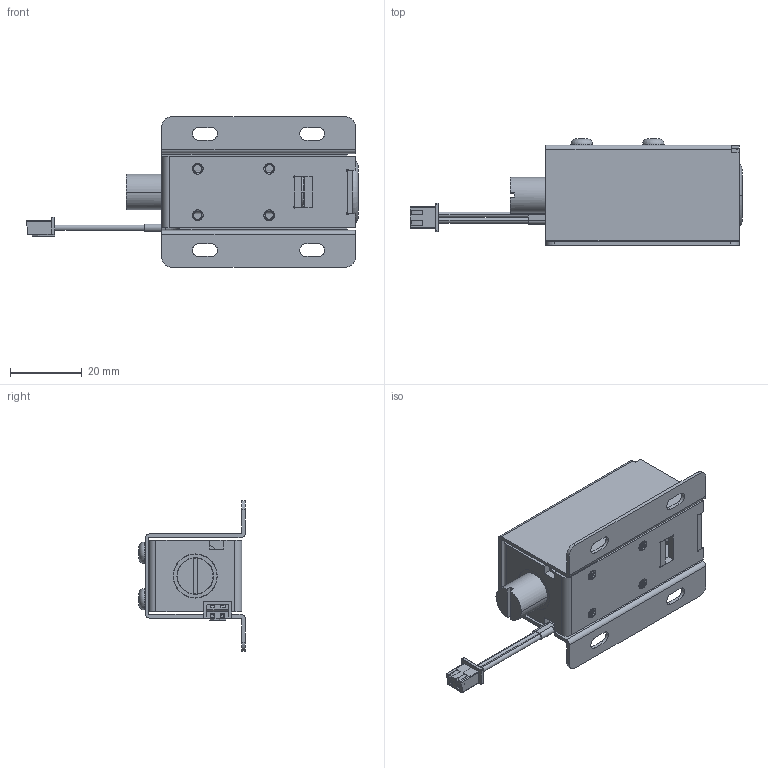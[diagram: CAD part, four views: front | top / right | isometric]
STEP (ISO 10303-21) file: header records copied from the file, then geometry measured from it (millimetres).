
FILE_DESCRIPTION((''),'2;1');
FILE_NAME('LY03G0_ASM','2025-04-24T16:09:44',('PRIME'),(''),'CREO PARAMETRIC BY PTC INC, 2023073','CREO PARAMETRIC BY PTC INC, 2023073','');
FILE_SCHEMA(('CONFIG_CONTROL_DESIGN','SHAPE_APPEARANCE_LAYERS_GROUPS'));
Length unit declared in the file: millimetre
Products named in the file (11): A-LY03G-00; B-LY03G-00; C-LY03G-000; E-LY03G-000; E-LY03B-00; D-LY03G-0001; G-LY03G-00; I-LY03G-00; M3-600; 0001; LY03G0_ASM
Assembly tree (11 placements, depth 2):
  LY03G0_ASM
    A-LY03G-00
    B-LY03G-00
    C-LY03G-000
    E-LY03G-000
    E-LY03B-00
    D-LY03G-0001
    G-LY03G-00
    I-LY03G-00
    M3-600  x2
    0001
Bounding box: 92.8 x 29.8 x 42 mm (x, y, z)
Volume: 17014.8 mm3; surface area: 25669.1 mm2
Topology: 12 solids, 12 shells, 598 faces, 1610 edges, 1052 vertices
Faces by surface type: plane 272, cylinder 212, bspline 64, torus 34, cone 10, revolution 4, sphere 2
Entity records: 30886 total; most frequent: CARTESIAN_POINT 11665, ORIENTED_EDGE 2922, DIRECTION 2620, EDGE_CURVE 1461, PRESENTATION_STYLE_ASSIGNMENT 1057, VERTEX_POINT 958, STYLED_ITEM 925, AXIS2_PLACEMENT_3D 909
